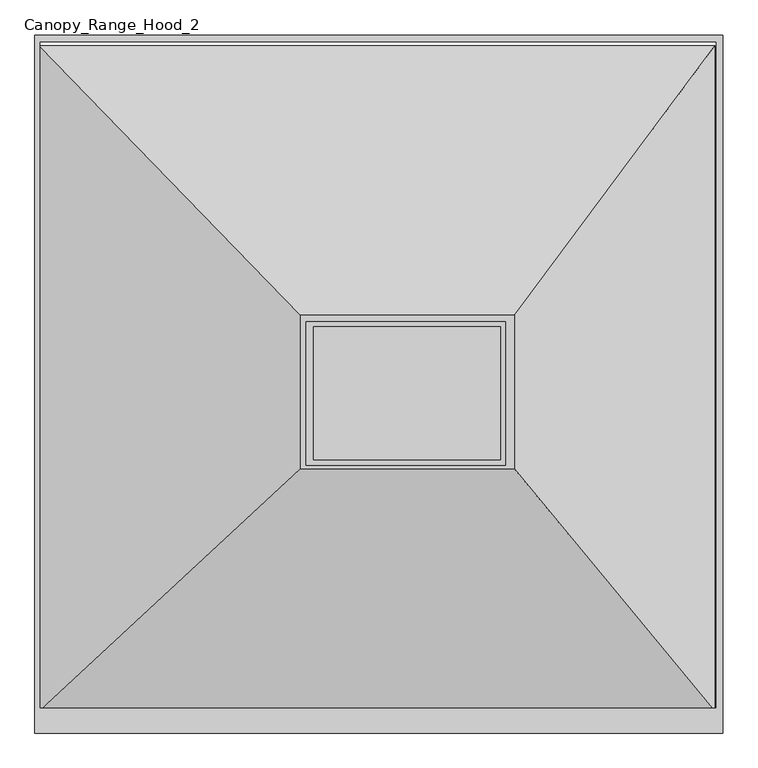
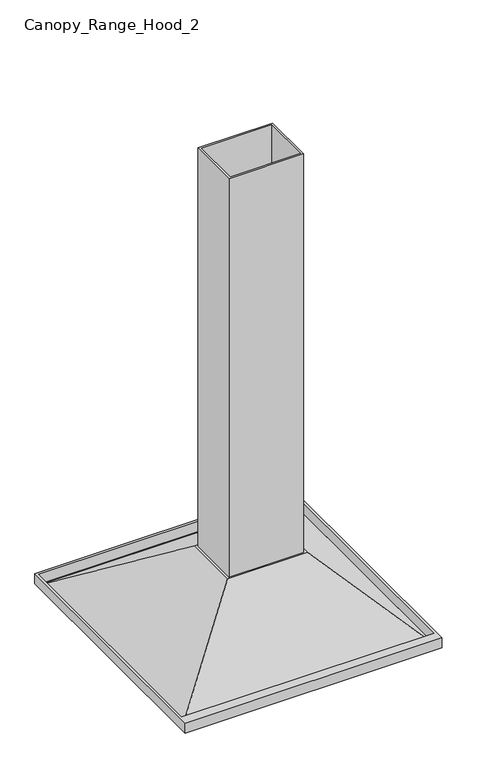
"""IFC4 building model written with IfcOpenShell, lengths in millimetres: proxy geometry, Canopy_Range_Hood_2 : . nova coifa."""

from ifc_helpers import new_model, si_unit, frame, origin, place, context, project, spatial, polyline, outline, extrude, faceted_brep, source, transform, mapped, element, save


def canopy_range_hood_2_829e1883(model_context):
    return source(origin(), model_context, "Body", "SolidModel", [
        extrude(outline(polyline([(-350.0, -26.918318), (9.0805597, -26.918318), (9.0805597, -285.0), (-350.0, -285.0), (-350.0, -26.918318)]), holes=[polyline([(-336.6208197, -275.2824074), (0.0, -275.2824074), (0.0, -36.2465467), (-336.6208197, -36.2465467), (-336.6208197, -275.2824074)])]), frame((0.0, 0.0, 2324.1), z_axis=(0.0, 0.0, 1.0), x_axis=(1.0, 0.0, 0.0)), (0.0, 0.0, 1.0), 2035.9),
        faceted_brep([(-360.0, -290.775, 2330.9213332), (25.0, -290.775, 2330.9213332), (25.0, -15.0, 2330.9213332), (-360.0, -15.0, 2330.9213332), (-830.0, -726.7379768, 2000.0), (-830.0, 470.0, 2000.0), (385.3, 470.0, 2000.0), (385.3, -726.7379768, 2000.0)], [[[0, 1, 2, 3]], [[4, 5, 6, 7]], [[4, 7, 1, 0]], [[7, 6, 2, 1]], [[6, 5, 3, 2]], [[5, 4, 0, 3]]]),
        extrude(outline(polyline([(400.0, 488.95), (400.0, -766.1752341), (-838.0, -766.1752341), (-838.0, 488.95), (400.0, 488.95)]), holes=[polyline([(-828.0, 476.25), (-828.0, -720.4879768), (387.3, -720.4879768), (387.3, 476.25), (-828.0, 476.25)])]), frame((0.0, 0.0, 2000.0), z_axis=(0.0, 0.0, 1.0), x_axis=(1.0, 0.0, 0.0)), (0.0, 0.0, 1.0), 50.8),
    ])


if __name__ == "__main__":
    model = new_model("IFC4")
    model_context = context("Model", 3, world=origin())
    ifc_project = project(units=[si_unit("LENGTHUNIT", "METRE", prefix="MILLI")], contexts=[model_context])
    site = spatial("IfcSite", under=ifc_project)
    building = spatial("IfcBuilding", under=site)
    placement = place(None, origin())
    canopy_range_hood_2_shape = canopy_range_hood_2_829e1883(model_context)
    element("IfcBuildingElementProxy", 1, Name="Canopy_Range_Hood_2 : . nova coifa", ObjectType="Canopy_Range_Hood_2 : . nova coifa", at=placement, inside=building, context=model_context, shape_type="MappedRepresentation", body=[
        mapped(canopy_range_hood_2_shape, transform((0.0, 0.0, 0.0), x_axis=(1.0, 0.0, 0.0), y_axis=(0.0, 1.0, 0.0), z_axis=(0.0, 0.0, 1.0))),
    ])
    save(model, "model.ifc")
